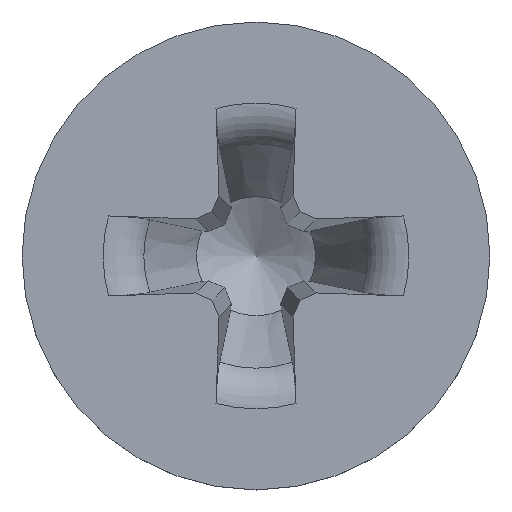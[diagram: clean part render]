
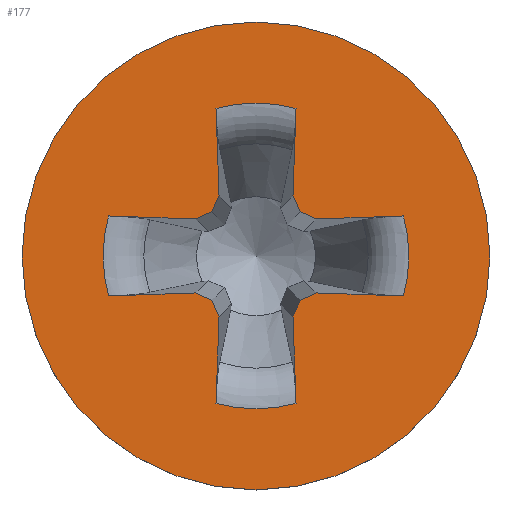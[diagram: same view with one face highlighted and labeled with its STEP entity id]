
A CAD part, top view. The second image highlights one B-rep face of the part: STEP entity #177.
In plain terms, the highlighted planar face has unit normal (0, 0, 1).
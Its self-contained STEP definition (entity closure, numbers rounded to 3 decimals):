
#51=LINE('',#1606,#90);
#52=LINE('',#1611,#91);
#53=LINE('',#1613,#92);
#54=LINE('',#1615,#93);
#55=LINE('',#1617,#94);
#56=LINE('',#1621,#95);
#57=LINE('',#1623,#96);
#58=LINE('',#1625,#97);
#59=LINE('',#1627,#98);
#60=LINE('',#1631,#99);
#61=LINE('',#1633,#100);
#62=LINE('',#1635,#101);
#63=LINE('',#1637,#102);
#64=LINE('',#1641,#103);
#65=LINE('',#1643,#104);
#66=LINE('',#1645,#105);
#90=VECTOR('',#986,1.);
#91=VECTOR('',#989,1.);
#92=VECTOR('',#990,1.);
#93=VECTOR('',#991,1.);
#94=VECTOR('',#992,1.);
#95=VECTOR('',#995,1.);
#96=VECTOR('',#996,1.);
#97=VECTOR('',#997,1.);
#98=VECTOR('',#998,1.);
#99=VECTOR('',#1001,1.);
#100=VECTOR('',#1002,1.);
#101=VECTOR('',#1003,1.);
#102=VECTOR('',#1004,1.);
#103=VECTOR('',#1007,1.);
#104=VECTOR('',#1008,1.);
#105=VECTOR('',#1009,1.);
#134=PLANE('',#920);
#161=FACE_BOUND('',#284,.T.);
#162=FACE_BOUND('',#285,.T.);
#177=ADVANCED_FACE('',(#161,#162),#134,.F.);
#284=EDGE_LOOP('',(#388,#389,#390,#391,#392,#393,#394,#395,#396,#397,#398,
#399,#400,#401,#402,#403,#404,#405,#406,#407));
#285=EDGE_LOOP('',(#408));
#340=CIRCLE('',#915,1.633);
#341=CIRCLE('',#916,1.633);
#342=CIRCLE('',#917,1.633);
#343=CIRCLE('',#918,1.633);
#344=CIRCLE('',#919,2.5);
#388=ORIENTED_EDGE('',*,*,#730,.F.);
#389=ORIENTED_EDGE('',*,*,#731,.T.);
#390=ORIENTED_EDGE('',*,*,#732,.F.);
#391=ORIENTED_EDGE('',*,*,#733,.F.);
#392=ORIENTED_EDGE('',*,*,#734,.F.);
#393=ORIENTED_EDGE('',*,*,#735,.F.);
#394=ORIENTED_EDGE('',*,*,#736,.T.);
#395=ORIENTED_EDGE('',*,*,#737,.F.);
#396=ORIENTED_EDGE('',*,*,#738,.F.);
#397=ORIENTED_EDGE('',*,*,#739,.F.);
#398=ORIENTED_EDGE('',*,*,#740,.F.);
#399=ORIENTED_EDGE('',*,*,#741,.T.);
#400=ORIENTED_EDGE('',*,*,#742,.F.);
#401=ORIENTED_EDGE('',*,*,#743,.F.);
#402=ORIENTED_EDGE('',*,*,#744,.F.);
#403=ORIENTED_EDGE('',*,*,#745,.F.);
#404=ORIENTED_EDGE('',*,*,#746,.T.);
#405=ORIENTED_EDGE('',*,*,#747,.F.);
#406=ORIENTED_EDGE('',*,*,#748,.F.);
#407=ORIENTED_EDGE('',*,*,#749,.F.);
#408=ORIENTED_EDGE('',*,*,#750,.F.);
#639=VERTEX_POINT('',#1607);
#640=VERTEX_POINT('',#1608);
#641=VERTEX_POINT('',#1610);
#642=VERTEX_POINT('',#1612);
#643=VERTEX_POINT('',#1614);
#644=VERTEX_POINT('',#1616);
#645=VERTEX_POINT('',#1618);
#646=VERTEX_POINT('',#1620);
#647=VERTEX_POINT('',#1622);
#648=VERTEX_POINT('',#1624);
#649=VERTEX_POINT('',#1626);
#650=VERTEX_POINT('',#1628);
#651=VERTEX_POINT('',#1630);
#652=VERTEX_POINT('',#1632);
#653=VERTEX_POINT('',#1634);
#654=VERTEX_POINT('',#1636);
#655=VERTEX_POINT('',#1638);
#656=VERTEX_POINT('',#1640);
#657=VERTEX_POINT('',#1642);
#658=VERTEX_POINT('',#1644);
#659=VERTEX_POINT('',#1647);
#730=EDGE_CURVE('',#639,#640,#51,.T.);
#731=EDGE_CURVE('',#639,#641,#340,.T.);
#732=EDGE_CURVE('',#642,#641,#52,.T.);
#733=EDGE_CURVE('',#643,#642,#53,.T.);
#734=EDGE_CURVE('',#644,#643,#54,.T.);
#735=EDGE_CURVE('',#645,#644,#55,.T.);
#736=EDGE_CURVE('',#645,#646,#341,.T.);
#737=EDGE_CURVE('',#647,#646,#56,.T.);
#738=EDGE_CURVE('',#648,#647,#57,.T.);
#739=EDGE_CURVE('',#649,#648,#58,.T.);
#740=EDGE_CURVE('',#650,#649,#59,.T.);
#741=EDGE_CURVE('',#650,#651,#342,.T.);
#742=EDGE_CURVE('',#652,#651,#60,.T.);
#743=EDGE_CURVE('',#653,#652,#61,.T.);
#744=EDGE_CURVE('',#654,#653,#62,.T.);
#745=EDGE_CURVE('',#655,#654,#63,.T.);
#746=EDGE_CURVE('',#655,#656,#343,.T.);
#747=EDGE_CURVE('',#657,#656,#64,.T.);
#748=EDGE_CURVE('',#658,#657,#65,.T.);
#749=EDGE_CURVE('',#640,#658,#66,.T.);
#750=EDGE_CURVE('',#659,#659,#344,.T.);
#915=AXIS2_PLACEMENT_3D('',#1609,#987,#988);
#916=AXIS2_PLACEMENT_3D('',#1619,#993,#994);
#917=AXIS2_PLACEMENT_3D('',#1629,#999,#1000);
#918=AXIS2_PLACEMENT_3D('',#1639,#1005,#1006);
#919=AXIS2_PLACEMENT_3D('',#1646,#1010,#1011);
#920=AXIS2_PLACEMENT_3D('',#1648,#1012,#1013);
#986=DIRECTION('',(-0.999,-0.035,0.));
#987=DIRECTION('',(0.,0.,-1.));
#988=DIRECTION('',(-1.,0.,0.));
#989=DIRECTION('',(0.999,-0.035,0.));
#990=DIRECTION('',(0.914,0.407,0.));
#991=DIRECTION('',(0.407,0.914,0.));
#992=DIRECTION('',(-0.035,0.999,0.));
#993=DIRECTION('',(0.,0.,-1.));
#994=DIRECTION('',(-1.,0.,0.));
#995=DIRECTION('',(-0.035,-0.999,0.));
#996=DIRECTION('',(0.407,-0.914,0.));
#997=DIRECTION('',(0.914,-0.407,0.));
#998=DIRECTION('',(0.999,0.035,0.));
#999=DIRECTION('',(0.,0.,-1.));
#1000=DIRECTION('',(-1.,0.,0.));
#1001=DIRECTION('',(-0.999,0.035,0.));
#1002=DIRECTION('',(-0.914,-0.407,0.));
#1003=DIRECTION('',(-0.407,-0.914,0.));
#1004=DIRECTION('',(0.035,-0.999,0.));
#1005=DIRECTION('',(0.,0.,-1.));
#1006=DIRECTION('',(-1.,0.,0.));
#1007=DIRECTION('',(0.035,0.999,0.));
#1008=DIRECTION('',(-0.407,0.914,0.));
#1009=DIRECTION('',(-0.914,0.407,0.));
#1010=DIRECTION('',(0.,0.,-1.));
#1011=DIRECTION('',(-1.,0.,0.));
#1012=DIRECTION('',(0.,0.,-1.));
#1013=DIRECTION('',(-1.,0.,0.));
#1606=CARTESIAN_POINT('',(-0.013,0.372,2.065));
#1607=CARTESIAN_POINT('',(1.576,0.428,2.065));
#1608=CARTESIAN_POINT('',(0.648,0.395,2.065));
#1609=CARTESIAN_POINT('',(0.,0.,2.065));
#1610=CARTESIAN_POINT('',(1.576,-0.428,2.065));
#1611=CARTESIAN_POINT('',(-0.013,-0.372,2.065));
#1612=CARTESIAN_POINT('',(0.648,-0.395,2.065));
#1613=CARTESIAN_POINT('',(0.254,-0.571,2.065));
#1614=CARTESIAN_POINT('',(0.473,-0.473,2.065));
#1615=CARTESIAN_POINT('',(0.571,-0.254,2.065));
#1616=CARTESIAN_POINT('',(0.395,-0.648,2.065));
#1617=CARTESIAN_POINT('',(0.372,0.013,2.065));
#1618=CARTESIAN_POINT('',(0.428,-1.576,2.065));
#1619=CARTESIAN_POINT('',(0.,0.,2.065));
#1620=CARTESIAN_POINT('',(-0.428,-1.576,2.065));
#1621=CARTESIAN_POINT('',(-0.372,0.013,2.065));
#1622=CARTESIAN_POINT('',(-0.395,-0.648,2.065));
#1623=CARTESIAN_POINT('',(-0.571,-0.254,2.065));
#1624=CARTESIAN_POINT('',(-0.473,-0.473,2.065));
#1625=CARTESIAN_POINT('',(-0.254,-0.571,2.065));
#1626=CARTESIAN_POINT('',(-0.648,-0.395,2.065));
#1627=CARTESIAN_POINT('',(0.013,-0.372,2.065));
#1628=CARTESIAN_POINT('',(-1.576,-0.428,2.065));
#1629=CARTESIAN_POINT('',(0.,0.,2.065));
#1630=CARTESIAN_POINT('',(-1.576,0.428,2.065));
#1631=CARTESIAN_POINT('',(0.013,0.372,2.065));
#1632=CARTESIAN_POINT('',(-0.648,0.395,2.065));
#1633=CARTESIAN_POINT('',(-0.254,0.571,2.065));
#1634=CARTESIAN_POINT('',(-0.473,0.473,2.065));
#1635=CARTESIAN_POINT('',(-0.571,0.254,2.065));
#1636=CARTESIAN_POINT('',(-0.395,0.648,2.065));
#1637=CARTESIAN_POINT('',(-0.372,-0.013,2.065));
#1638=CARTESIAN_POINT('',(-0.428,1.576,2.065));
#1639=CARTESIAN_POINT('',(0.,0.,2.065));
#1640=CARTESIAN_POINT('',(0.428,1.576,2.065));
#1641=CARTESIAN_POINT('',(0.372,-0.013,2.065));
#1642=CARTESIAN_POINT('',(0.395,0.648,2.065));
#1643=CARTESIAN_POINT('',(0.571,0.254,2.065));
#1644=CARTESIAN_POINT('',(0.473,0.473,2.065));
#1645=CARTESIAN_POINT('',(0.254,0.571,2.065));
#1646=CARTESIAN_POINT('',(0.,0.,2.065));
#1647=CARTESIAN_POINT('',(-2.5,0.,2.065));
#1648=CARTESIAN_POINT('',(0.,0.,2.065));
